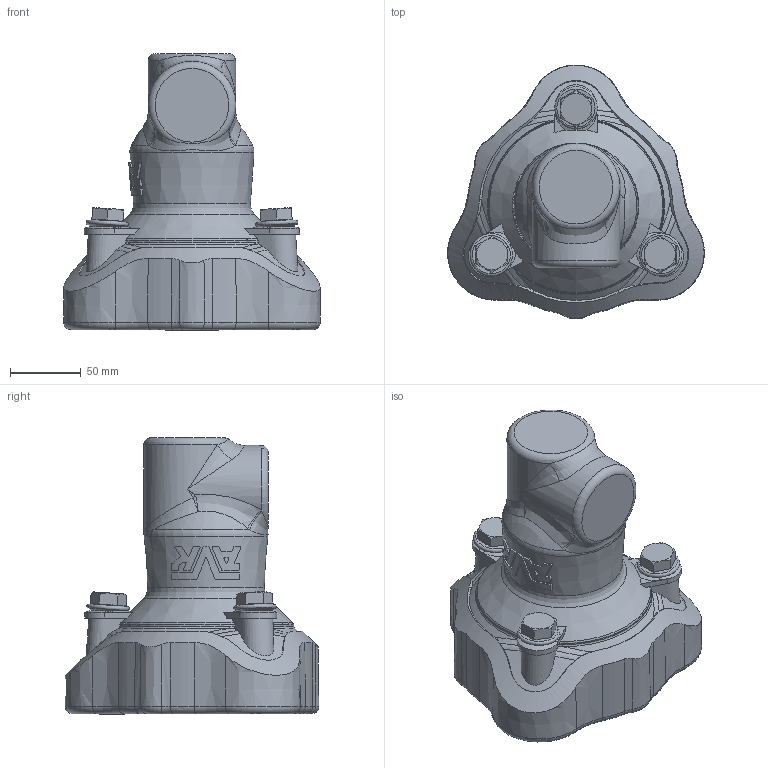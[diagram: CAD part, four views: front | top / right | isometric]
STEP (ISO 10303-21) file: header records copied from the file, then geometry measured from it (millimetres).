
FILE_DESCRIPTION (( 'STEP AP203' ), '1' );
FILE_NAME ('O_634_00_DN050_048-071mm_AA0_step.step', '2016-05-10T09:14:04', ( 'Windows User' ), ( 'AVK' ), 'SwSTEP 2.0', 'SolidWorks 2012', '' );
FILE_SCHEMA (( 'CONFIG_CONTROL_DESIGN' ));
Length unit declared in the file: millimetre
Products named in the file (1): O_634_00_DN050_048-071mm_AA0_step
Bounding box: 181.54 x 179.43 x 195.51 mm (x, y, z)
Volume: 1537402.9 mm3; surface area: 138163 mm2
Topology: 1 solids, 1 shells, 393 faces, 1041 edges, 665 vertices
Faces by surface type: plane 121, cylinder 99, bspline 64, cone 59, torus 43, sphere 7
Full cylindrical faces by diameter (mm): 20.5 x3, 71 x3, 75.332 x1
Entity records: 17099 total; most frequent: CARTESIAN_POINT 8864, ORIENTED_EDGE 2016, DIRECTION 1278, EDGE_CURVE 1008, VERTEX_POINT 653, AXIS2_PLACEMENT_3D 485, EDGE_LOOP 429, FACE_OUTER_BOUND 409
